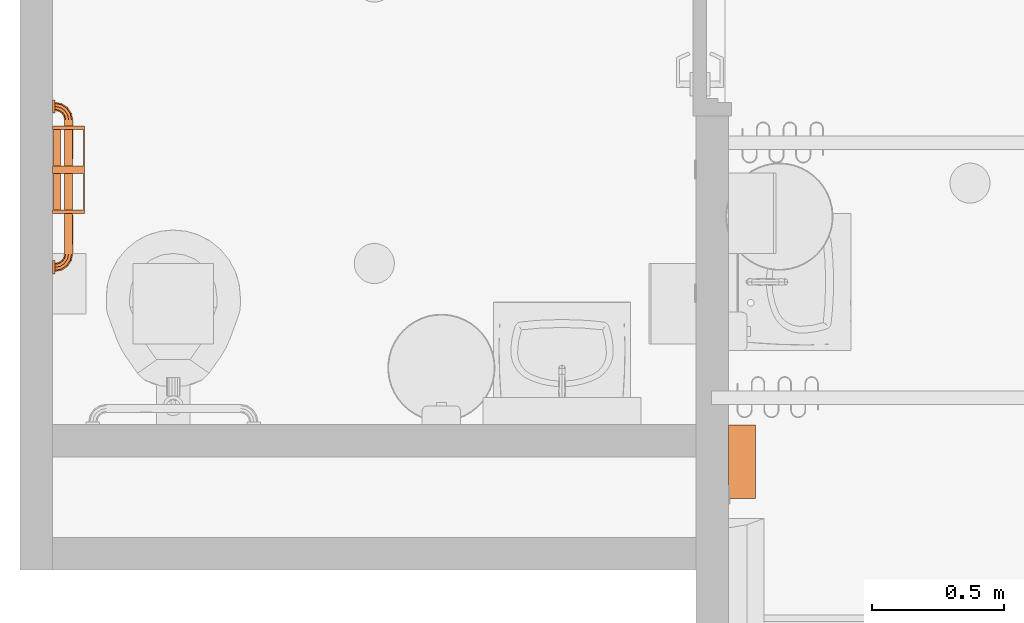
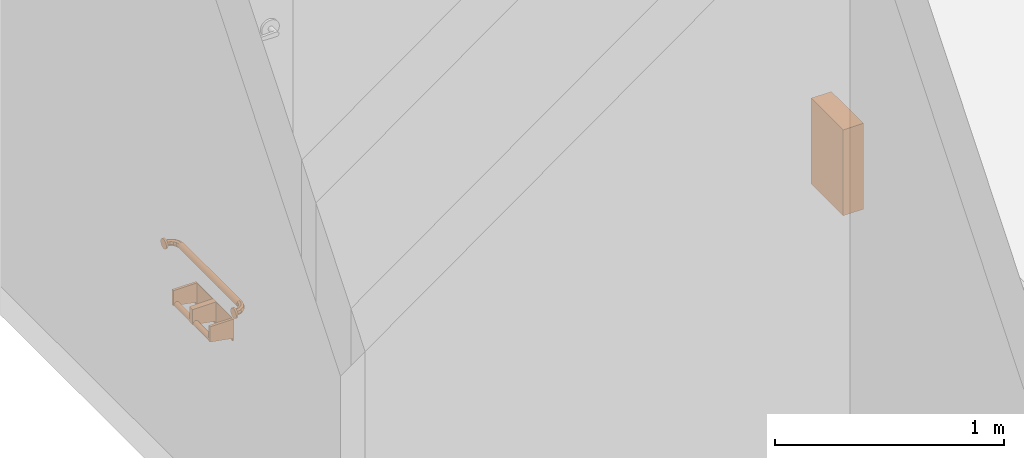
# One storey, part 9 of 14: 3 proxies.
"""IFC2X3 building model written with IfcOpenShell, lengths in feet."""

from ifc_helpers import new_model, entity, si_unit, converted_unit, derived_unit, direction, frame, frame_2d, origin, origin_2d_with_axis, place, context, subcontext, project, spatial, polyline, rectangle, circle, outline, extrude, faceted_brep, source, transform, mapped, type_object, type_shapes, element, save


model = new_model("IFC2X3")

# Units and contexts
model_context = context("Model", 3, precision=0.0001, world=origin(), true_north=direction((6.12303176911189e-17, 1.0)))
body_context = subcontext(model_context, "Body", "Model", "MODEL_VIEW")
ifc_project = project(units=[converted_unit("LENGTHUNIT", "FOOT", entity("IfcRatioMeasure", 0.3048), si_unit("LENGTHUNIT", "METRE"), dimensions=[1, 0, 0, 0, 0, 0, 0]), converted_unit("AREAUNIT", "SQUARE FOOT", entity("IfcRatioMeasure", 0.09290304), si_unit("AREAUNIT", "SQUARE_METRE"), dimensions=[2, 0, 0, 0, 0, 0, 0]), converted_unit("VOLUMEUNIT", "CUBIC FOOT", entity("IfcRatioMeasure", 0.028316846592), si_unit("VOLUMEUNIT", "CUBIC_METRE"), dimensions=[3, 0, 0, 0, 0, 0, 0]), converted_unit("PLANEANGLEUNIT", "DEGREE", entity("IfcRatioMeasure", 0.0174532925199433), si_unit("PLANEANGLEUNIT", "RADIAN"), dimensions=[0, 0, 0, 0, 0, 0, 0]), si_unit("MASSUNIT", "GRAM", prefix="KILO"), derived_unit("MASSDENSITYUNIT", [(si_unit("MASSUNIT", "GRAM", prefix="KILO"), 1), (si_unit("LENGTHUNIT", "METRE"), -3)]), si_unit("TIMEUNIT", "SECOND"), si_unit("FREQUENCYUNIT", "HERTZ"), si_unit("THERMODYNAMICTEMPERATUREUNIT", "DEGREE_CELSIUS"), derived_unit("THERMALTRANSMITTANCEUNIT", [(si_unit("MASSUNIT", "GRAM", prefix="KILO"), 1), (si_unit("THERMODYNAMICTEMPERATUREUNIT", "KELVIN"), -1), (si_unit("TIMEUNIT", "SECOND"), -3)]), derived_unit("VOLUMETRICFLOWRATEUNIT", [(si_unit("LENGTHUNIT", "METRE"), 3), (si_unit("TIMEUNIT", "SECOND"), -1)]), si_unit("ELECTRICCURRENTUNIT", "AMPERE"), si_unit("ELECTRICVOLTAGEUNIT", "VOLT"), si_unit("POWERUNIT", "WATT"), si_unit("FORCEUNIT", "NEWTON"), si_unit("ILLUMINANCEUNIT", "LUX"), si_unit("LUMINOUSFLUXUNIT", "LUMEN"), si_unit("LUMINOUSINTENSITYUNIT", "CANDELA"), derived_unit("USERDEFINED", [(si_unit("MASSUNIT", "GRAM", prefix="KILO"), -1), (si_unit("LENGTHUNIT", "METRE"), -2), (si_unit("TIMEUNIT", "SECOND"), 3), (si_unit("LUMINOUSFLUXUNIT", "LUMEN"), 1)]), derived_unit("LINEARVELOCITYUNIT", [(si_unit("LENGTHUNIT", "METRE"), 1), (si_unit("TIMEUNIT", "SECOND"), -1)]), si_unit("PRESSUREUNIT", "PASCAL"), derived_unit("USERDEFINED", [(si_unit("LENGTHUNIT", "METRE"), -2), (si_unit("MASSUNIT", "GRAM", prefix="KILO"), 1), (si_unit("TIMEUNIT", "SECOND"), -2)])], contexts=[model_context])

# Site, building, storey, space
site_placement = place(None, origin())
site = spatial("IfcSite", under=ifc_project, at=site_placement, Name="Default", CompositionType="ELEMENT")
building_placement = place(site_placement, origin())
building = spatial("IfcBuilding", under=site, at=building_placement, Name="OUTPATIENT / PACT CLINIC (Ch. 265)", CompositionType="ELEMENT")
storey_placement = place(building_placement, origin())
storey = spatial("IfcBuildingStorey", under=building, at=storey_placement, Name="DATUM", CompositionType="ELEMENT", Elevation=0.0)
space_1_placement = place(storey_placement, origin())
space_1 = spatial("IfcSpace", under=storey, at=space_1_placement, Name="XDUS1", CompositionType="ELEMENT", InteriorOrExteriorSpace="INTERNAL")

# Proxy
building_element_proxy_type_1 = type_object("IfcBuildingElementProxyType", Name="A5107 - Dispenser, Glove, Surgical-Examination, Wall Mntd 10\"x 4\"", PredefinedType="NOTDEFINED")
shared_shape_1 = source(origin(), body_context, "Body", "SweptSolid", [
    extrude(rectangle(XDim=0.916666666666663, YDim=0.333333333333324, at=frame_2d((0.0, 2.77555756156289e-17), x_axis=(1.0, 0.0))), frame((0.0, -0.166666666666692, 0.0), z_axis=(0.0, 0.0, 1.0), x_axis=(-1.0, 0.0, 0.0)), (0.0, 0.0, 1.0), 1.5),
])
type_shapes(building_element_proxy_type_1, [shared_shape_1])
proxy_1_placement = place(space_1_placement, frame((332.637693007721, -851.057265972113, 3.5), z_axis=(0.0, 0.0, 1.0), x_axis=(0.0, 1.0, 0.0)))
element("IfcBuildingElementProxy", 1, at=proxy_1_placement, inside=space_1, type_object=building_element_proxy_type_1, Name="A5107 - Dispenser, Glove, Surgical-Examination, Wall Mntd:A5107 - Dispenser, Glove, Surgical-Examination, Wall Mntd 10\"x 4\"", ObjectType="A5107 - Dispenser, Glove, Surgical-Examination, Wall Mntd 10\"x 4\"", context=body_context, shape_type="MappedRepresentation", body=[
    mapped(shared_shape_1, transform((0.0, 0.0, 0.0), scale=1.0)),
])

# Space
space_2_placement = place(storey_placement, origin())
space_2 = spatial("IfcSpace", under=storey, at=space_2_placement, Name="TNPG1", CompositionType="ELEMENT", InteriorOrExteriorSpace="INTERNAL")

# Proxies
building_element_proxy_type_2 = type_object("IfcBuildingElementProxyType", Name="A5109 - Grab Bar, 1.25 in Dia, SS, 2 Wall, W-C Accessible_Improved", PredefinedType="NOTDEFINED")
shared_shape_2 = source(origin(), body_context, "Body", "Brep", [
    faceted_brep([(0.897113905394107, -0.185229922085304, 0.0520833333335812), (0.883020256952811, -0.151204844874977, 0.036828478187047), (0.833333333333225, -0.161088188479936, 0.036828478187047), (0.8333333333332, -0.197916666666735, 0.0520833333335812), (0.877182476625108, -0.137111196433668, 0.0), (0.833333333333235, -0.145833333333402, 0.0), (0.883020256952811, -0.151204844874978, -0.0368284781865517), (0.833333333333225, -0.161088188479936, -0.0368284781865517), (0.897113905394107, -0.185229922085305, -0.0520833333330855), (0.8333333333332, -0.197916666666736, -0.0520833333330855), (0.911207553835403, -0.219254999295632, -0.0368284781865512), (0.833333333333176, -0.234745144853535, -0.0368284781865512), (0.917045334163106, -0.233348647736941, 0.0), (0.833333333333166, -0.250000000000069, 0.0), (0.911207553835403, -0.219254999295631, 0.0368284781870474), (0.833333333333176, -0.234745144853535, 0.0368284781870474), (0.951184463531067, -0.149101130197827, 0.0520833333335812), (0.925142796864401, -0.123059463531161, 0.036828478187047), (0.914355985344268, -0.112272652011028, 0.0), (0.925142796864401, -0.123059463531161, -0.0368284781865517), (0.951184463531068, -0.149101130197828, -0.0520833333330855), (0.977226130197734, -0.175142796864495, -0.0368284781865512), (0.988012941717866, -0.185929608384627, 0.0), (0.977226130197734, -0.175142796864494, 0.0368284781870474), (0.987313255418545, -0.0950305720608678, 0.0520833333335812), (0.953288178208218, -0.0809369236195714, 0.036828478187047), (0.939194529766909, -0.0750991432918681, 0.0), (0.953288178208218, -0.0809369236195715, -0.0368284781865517), (0.987313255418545, -0.0950305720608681, -0.0520833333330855), (1.02133833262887, -0.109124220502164, -0.0368284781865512), (1.03543198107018, -0.114962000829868, 0.0), (1.02133833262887, -0.109124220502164, 0.0368284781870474), (1.0, -0.0312499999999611, 0.0520833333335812), (0.963171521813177, -0.0312499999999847, 0.036828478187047), (0.947916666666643, -0.0312499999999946, 0.0), (0.963171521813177, -0.0312499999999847, -0.0368284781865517), (1.0, -0.0312499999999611, -0.0520833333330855), (1.03682847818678, -0.0312499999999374, -0.0368284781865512), (1.05208333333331, -0.0312499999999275, 0.0), (1.03682847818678, -0.0312499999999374, 0.0368284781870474)], [[[0, 1, 2, 3]], [[1, 4, 5, 2]], [[4, 6, 7, 5]], [[6, 8, 9, 7]], [[8, 10, 11, 9]], [[10, 12, 13, 11]], [[12, 14, 15, 13]], [[14, 0, 3, 15]], [[16, 17, 1, 0]], [[17, 18, 4, 1]], [[18, 19, 6, 4]], [[19, 20, 8, 6]], [[20, 21, 10, 8]], [[21, 22, 12, 10]], [[22, 23, 14, 12]], [[23, 16, 0, 14]], [[24, 25, 17, 16]], [[25, 26, 18, 17]], [[26, 27, 19, 18]], [[27, 28, 20, 19]], [[28, 29, 21, 20]], [[29, 30, 22, 21]], [[30, 31, 23, 22]], [[31, 24, 16, 23]], [[32, 33, 25, 24]], [[33, 34, 26, 25]], [[34, 35, 27, 26]], [[35, 36, 28, 27]], [[36, 37, 29, 28]], [[37, 38, 30, 29]], [[38, 39, 31, 30]], [[39, 32, 24, 31]], [[3, 2, 5, 7, 9, 11, 13, 15]], [[39, 38, 37, 36, 35, 34, 33, 32]]]),
    faceted_brep([(0.978431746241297, -0.0312499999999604, -0.080493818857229), (1.0, -0.0312499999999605, -0.0833333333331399), (1.02156825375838, -0.0312499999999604, -0.0804938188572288), (1.04166666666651, -0.0312499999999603, -0.0721687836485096), (1.05892556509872, -0.0312499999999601, -0.0589255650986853), (1.07216878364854, -0.0312499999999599, -0.0416666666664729), (1.08049381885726, -0.0312499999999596, -0.0215682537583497), (1.08333333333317, -0.0312499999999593, 0.0), (1.08049381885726, -0.031249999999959, 0.0215682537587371), (1.07216878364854, -0.0312499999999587, 0.0416666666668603), (1.05892556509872, -0.0312499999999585, 0.0589255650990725), (1.04166666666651, -0.0312499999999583, 0.0721687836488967), (1.02156825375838, -0.0312499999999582, 0.0804938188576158), (1.0, -0.0312499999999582, 0.0833333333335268), (0.978431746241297, -0.0312499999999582, 0.0804938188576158), (0.958333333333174, -0.0312499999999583, 0.0721687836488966), (0.941074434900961, -0.0312499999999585, 0.0589255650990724), (0.927831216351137, -0.0312499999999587, 0.0416666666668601), (0.919506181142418, -0.031249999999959, 0.0215682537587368), (0.916666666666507, -0.0312499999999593, 0.0), (0.919506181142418, -0.0312499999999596, -0.0215682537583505), (0.927831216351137, -0.0312499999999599, -0.0416666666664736), (0.941074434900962, -0.0312499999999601, -0.0589255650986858), (0.958333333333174, -0.0312499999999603, -0.07216878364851), (1.0, 0.0, 0.0833333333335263), (1.02156825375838, 0.0, 0.0804938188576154), (1.04166666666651, 0.0, 0.0721687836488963), (1.05892556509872, 0.0, 0.0589255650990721), (1.07216878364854, 0.0, 0.0416666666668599), (1.08049381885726, 0.0, 0.0215682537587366), (1.08333333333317, 0.0, 0.0), (1.08049381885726, 0.0, -0.0215682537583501), (1.07216878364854, 0.0, -0.0416666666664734), (1.05892556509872, 0.0, -0.0589255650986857), (1.04166666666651, 0.0, -0.07216878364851), (1.02156825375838, 0.0, -0.0804938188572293), (1.0, 0.0, -0.0833333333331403), (0.978431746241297, 0.0, -0.0804938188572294), (0.958333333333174, 0.0, -0.0721687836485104), (0.941074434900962, 0.0, -0.0589255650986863), (0.927831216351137, 0.0, -0.0416666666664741), (0.919506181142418, 0.0, -0.0215682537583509), (0.916666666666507, 0.0, 0.0), (0.919506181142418, 0.0, 0.0215682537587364), (0.927831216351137, 0.0, 0.0416666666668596), (0.941074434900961, 0.0, 0.0589255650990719), (0.958333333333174, 0.0, 0.0721687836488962), (0.978431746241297, 0.0, 0.0804938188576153)], [[[0, 1, 2, 3, 4, 5, 6, 7, 8, 9, 10, 11, 12, 13, 14, 15, 16, 17, 18, 19, 20, 21, 22, 23]], [[24, 25, 26, 27, 28, 29, 30, 31, 32, 33, 34, 35, 36, 37, 38, 39, 40, 41, 42, 43, 44, 45, 46, 47]], [[30, 7, 6, 31]], [[31, 6, 5, 32]], [[34, 33, 4, 3]], [[4, 33, 32, 5]], [[35, 34, 3, 2]], [[35, 2, 1, 36]], [[36, 1, 0, 37]], [[37, 0, 23, 38]], [[40, 39, 22, 21]], [[22, 39, 38, 23]], [[41, 40, 21, 20]], [[41, 20, 19, 42]], [[42, 19, 18, 43]], [[43, 18, 17, 44]], [[46, 45, 16, 15]], [[16, 45, 44, 17]], [[47, 46, 15, 14]], [[47, 14, 13, 24]], [[24, 13, 12, 25]], [[25, 12, 11, 26]], [[28, 27, 10, 9]], [[10, 27, 26, 11]], [[29, 28, 9, 8]], [[29, 8, 7, 30]]]),
    faceted_brep([(-0.987313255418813, -0.0950305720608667, 0.0520833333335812), (-0.953288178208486, -0.0809369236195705, 0.036828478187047), (-0.963171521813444, -0.0312499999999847, 0.036828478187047), (-1.0, -0.031249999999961, 0.0520833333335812), (-0.939194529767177, -0.0750991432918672, 0.0), (-0.947916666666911, -0.0312499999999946, 0.0), (-0.953288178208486, -0.0809369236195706, -0.0368284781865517), (-0.963171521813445, -0.0312499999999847, -0.0368284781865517), (-0.987313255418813, -0.0950305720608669, -0.0520833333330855), (-1.0, -0.031249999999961, -0.0520833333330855), (-1.02133833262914, -0.109124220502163, -0.0368284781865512), (-1.03682847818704, -0.0312499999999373, -0.0368284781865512), (-1.03543198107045, -0.114962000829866, 0.0), (-1.05208333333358, -0.0312499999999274, 0.0), (-1.02133833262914, -0.109124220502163, 0.0368284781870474), (-1.03682847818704, -0.0312499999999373, 0.0368284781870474), (-0.951184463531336, -0.149101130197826, 0.0520833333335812), (-0.925142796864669, -0.12305946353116, 0.036828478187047), (-0.914355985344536, -0.112272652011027, 0.0), (-0.925142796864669, -0.12305946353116, -0.0368284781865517), (-0.951184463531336, -0.149101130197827, -0.0520833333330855), (-0.977226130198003, -0.175142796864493, -0.0368284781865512), (-0.988012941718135, -0.185929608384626, 0.0), (-0.977226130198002, -0.175142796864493, 0.0368284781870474), (-0.897113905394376, -0.185229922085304, 0.0520833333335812), (-0.883020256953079, -0.151204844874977, 0.036828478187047), (-0.877182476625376, -0.137111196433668, 0.0), (-0.88302025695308, -0.151204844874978, -0.0368284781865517), (-0.897113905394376, -0.185229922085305, -0.0520833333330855), (-0.911207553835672, -0.219254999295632, -0.0368284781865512), (-0.917045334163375, -0.23334864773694, 0.0), (-0.911207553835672, -0.219254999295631, 0.0368284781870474), (-0.833333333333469, -0.197916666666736, 0.0520833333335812), (-0.833333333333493, -0.161088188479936, 0.036828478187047), (-0.833333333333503, -0.145833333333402, 0.0), (-0.833333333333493, -0.161088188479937, -0.0368284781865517), (-0.833333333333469, -0.197916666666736, -0.0520833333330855), (-0.833333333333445, -0.234745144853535, -0.0368284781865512), (-0.833333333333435, -0.250000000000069, 0.0), (-0.833333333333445, -0.234745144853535, 0.0368284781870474)], [[[0, 1, 2, 3]], [[1, 4, 5, 2]], [[4, 6, 7, 5]], [[6, 8, 9, 7]], [[8, 10, 11, 9]], [[10, 12, 13, 11]], [[12, 14, 15, 13]], [[14, 0, 3, 15]], [[16, 17, 1, 0]], [[17, 18, 4, 1]], [[18, 19, 6, 4]], [[19, 20, 8, 6]], [[20, 21, 10, 8]], [[21, 22, 12, 10]], [[22, 23, 14, 12]], [[23, 16, 0, 14]], [[24, 25, 17, 16]], [[25, 26, 18, 17]], [[26, 27, 19, 18]], [[27, 28, 20, 19]], [[28, 29, 21, 20]], [[29, 30, 22, 21]], [[30, 31, 23, 22]], [[31, 24, 16, 23]], [[32, 33, 25, 24]], [[33, 34, 26, 25]], [[34, 35, 27, 26]], [[35, 36, 28, 27]], [[36, 37, 29, 28]], [[37, 38, 30, 29]], [[38, 39, 31, 30]], [[39, 32, 24, 31]], [[3, 2, 5, 7, 9, 11, 13, 15]], [[39, 38, 37, 36, 35, 34, 33, 32]]]),
    faceted_brep([(-0.958333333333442, -0.0312499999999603, -0.07216878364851), (-0.941074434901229, -0.0312499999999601, -0.0589255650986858), (-0.927831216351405, -0.0312499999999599, -0.0416666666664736), (-0.919506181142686, -0.0312499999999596, -0.0215682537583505), (-0.916666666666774, -0.0312499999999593, 0.0), (-0.919506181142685, -0.031249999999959, 0.0215682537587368), (-0.927831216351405, -0.0312499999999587, 0.0416666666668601), (-0.941074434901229, -0.0312499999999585, 0.0589255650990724), (-0.958333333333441, -0.0312499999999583, 0.0721687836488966), (-0.978431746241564, -0.0312499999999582, 0.0804938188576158), (-1.0, -0.0312499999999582, 0.0833333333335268), (-1.02156825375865, -0.0312499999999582, 0.0804938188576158), (-1.04166666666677, -0.0312499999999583, 0.0721687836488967), (-1.05892556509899, -0.0312499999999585, 0.0589255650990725), (-1.07216878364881, -0.0312499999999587, 0.0416666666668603), (-1.08049381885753, -0.031249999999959, 0.0215682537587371), (-1.08333333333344, -0.0312499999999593, 0.0), (-1.08049381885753, -0.0312499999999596, -0.0215682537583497), (-1.07216878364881, -0.0312499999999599, -0.0416666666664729), (-1.05892556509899, -0.0312499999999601, -0.0589255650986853), (-1.04166666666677, -0.0312499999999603, -0.0721687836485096), (-1.02156825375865, -0.0312499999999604, -0.0804938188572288), (-1.0, -0.0312499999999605, -0.0833333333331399), (-0.978431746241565, -0.0312499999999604, -0.080493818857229), (-0.978431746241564, 0.0, 0.0804938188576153), (-0.958333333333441, 0.0, 0.0721687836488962), (-0.941074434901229, 0.0, 0.0589255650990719), (-0.927831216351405, 0.0, 0.0416666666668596), (-0.919506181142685, 0.0, 0.0215682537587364), (-0.916666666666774, 0.0, 0.0), (-0.919506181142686, 0.0, -0.0215682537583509), (-0.927831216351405, 0.0, -0.0416666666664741), (-0.941074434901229, 0.0, -0.0589255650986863), (-0.958333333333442, 0.0, -0.0721687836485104), (-0.978431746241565, 0.0, -0.0804938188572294), (-1.0, 0.0, -0.0833333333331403), (-1.02156825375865, 0.0, -0.0804938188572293), (-1.04166666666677, 0.0, -0.07216878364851), (-1.05892556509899, 0.0, -0.0589255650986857), (-1.07216878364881, 0.0, -0.0416666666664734), (-1.08049381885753, 0.0, -0.0215682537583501), (-1.08333333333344, 0.0, 0.0), (-1.08049381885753, 0.0, 0.0215682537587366), (-1.07216878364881, 0.0, 0.0416666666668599), (-1.05892556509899, 0.0, 0.0589255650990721), (-1.04166666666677, 0.0, 0.0721687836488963), (-1.02156825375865, 0.0, 0.0804938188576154), (-1.0, 0.0, 0.0833333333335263)], [[[0, 1, 2, 3, 4, 5, 6, 7, 8, 9, 10, 11, 12, 13, 14, 15, 16, 17, 18, 19, 20, 21, 22, 23]], [[24, 25, 26, 27, 28, 29, 30, 31, 32, 33, 34, 35, 36, 37, 38, 39, 40, 41, 42, 43, 44, 45, 46, 47]], [[40, 17, 16, 41]], [[39, 18, 17, 40]], [[20, 19, 38, 37]], [[39, 38, 19, 18]], [[21, 20, 37, 36]], [[22, 21, 36, 35]], [[34, 23, 22, 35]], [[33, 0, 23, 34]], [[2, 1, 32, 31]], [[33, 32, 1, 0]], [[3, 2, 31, 30]], [[4, 3, 30, 29]], [[28, 5, 4, 29]], [[27, 6, 5, 28]], [[8, 7, 26, 25]], [[27, 26, 7, 6]], [[9, 8, 25, 24]], [[10, 9, 24, 47]], [[46, 11, 10, 47]], [[45, 12, 11, 46]], [[14, 13, 44, 43]], [[45, 44, 13, 12]], [[15, 14, 43, 42]], [[16, 15, 42, 41]]]),
    faceted_brep([(0.833333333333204, -0.171875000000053, 0.0451054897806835), (0.833333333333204, -0.18443650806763, 0.0503086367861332), (0.833333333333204, -0.19791666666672, 0.0520833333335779), (0.833333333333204, -0.21139682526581, 0.0503086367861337), (0.833333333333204, -0.223958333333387, 0.0451054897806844), (0.833333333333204, -0.23474514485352, 0.0368284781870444), (0.833333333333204, -0.24302215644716, 0.0260416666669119), (0.833333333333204, -0.24822530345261, 0.0134801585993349), (0.833333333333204, -0.250000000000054, 0.0), (0.833333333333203, -0.24822530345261, -0.0134801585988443), (0.833333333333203, -0.243022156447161, -0.0260416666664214), (0.833333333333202, -0.234745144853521, -0.0368284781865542), (0.833333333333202, -0.223958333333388, -0.0451054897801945), (0.833333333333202, -0.211396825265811, -0.0503086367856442), (0.833333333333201, -0.197916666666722, -0.0520833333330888), (0.833333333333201, -0.184436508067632, -0.0503086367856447), (0.833333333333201, -0.171875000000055, -0.0451054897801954), (0.833333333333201, -0.161088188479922, -0.0368284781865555), (0.833333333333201, -0.152811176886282, -0.0260416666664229), (0.833333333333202, -0.147608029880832, -0.013480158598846), (0.833333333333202, -0.145833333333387, 0.0), (0.833333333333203, -0.147608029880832, 0.0134801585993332), (0.833333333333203, -0.152811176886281, 0.0260416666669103), (0.833333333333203, -0.161088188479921, 0.0368284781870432), (-0.833333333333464, -0.250000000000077, 0.0), (-0.833333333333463, -0.248225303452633, 0.0134801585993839), (-0.833333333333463, -0.243022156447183, 0.0260416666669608), (-0.833333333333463, -0.234745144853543, 0.0368284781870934), (-0.833333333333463, -0.22395833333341, 0.0451054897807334), (-0.833333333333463, -0.211396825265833, 0.0503086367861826), (-0.833333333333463, -0.197916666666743, 0.0520833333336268), (-0.833333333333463, -0.184436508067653, 0.0503086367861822), (-0.833333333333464, -0.171875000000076, 0.0451054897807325), (-0.833333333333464, -0.161088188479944, 0.0368284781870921), (-0.833333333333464, -0.152811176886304, 0.0260416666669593), (-0.833333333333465, -0.147608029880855, 0.0134801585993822), (-0.833333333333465, -0.14583333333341, 0.0), (-0.833333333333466, -0.147608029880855, -0.0134801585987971), (-0.833333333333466, -0.152811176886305, -0.026041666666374), (-0.833333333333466, -0.161088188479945, -0.0368284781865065), (-0.833333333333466, -0.171875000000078, -0.0451054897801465), (-0.833333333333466, -0.184436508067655, -0.0503086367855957), (-0.833333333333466, -0.197916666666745, -0.0520833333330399), (-0.833333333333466, -0.211396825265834, -0.0503086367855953), (-0.833333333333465, -0.223958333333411, -0.0451054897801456), (-0.833333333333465, -0.234745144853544, -0.0368284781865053), (-0.833333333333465, -0.243022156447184, -0.0260416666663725), (-0.833333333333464, -0.248225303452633, -0.0134801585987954), (0.0, -0.177985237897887, -0.0481187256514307), (0.0, -0.149797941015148, -0.0199314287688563), (0.379725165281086, -0.146278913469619, -0.00679823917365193), (0.194178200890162, -0.156596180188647, -0.0317063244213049), (0.379725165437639, -0.166210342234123, -0.0413204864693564), (-0.194178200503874, -0.166210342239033, -0.041320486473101), (-0.379725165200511, -0.156596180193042, -0.0317063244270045), (-0.194178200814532, -0.156596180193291, 0.0317063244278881), (-0.379725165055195, -0.166210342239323, 0.0413204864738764), (0.379725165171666, -0.156596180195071, 0.0317063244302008), (0.194178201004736, -0.166210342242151, 0.0413204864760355), (-0.194178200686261, -0.146278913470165, -0.00679823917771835), (-0.268341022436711, -0.187755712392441, -0.0510825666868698), (-3.08563133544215e-06, -0.197916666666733, -0.0520833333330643), (0.303092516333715, -0.188540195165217, -0.051232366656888), (0.194178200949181, -0.146278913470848, 0.0067982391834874), (-0.379725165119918, -0.146278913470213, 0.00679823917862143), (0.0, -0.149797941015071, 0.0199314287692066), (0.0, -0.17798523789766, 0.0481187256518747), (0.0, -0.197916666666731, 0.0520833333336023), (-0.303092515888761, -0.188540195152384, 0.0512323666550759), (0.268341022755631, -0.187755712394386, 0.0510825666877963), (0.0795376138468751, -0.19791666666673, 0.0520833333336), (0.379725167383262, -0.239237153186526, 0.0317063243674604), (0.0, -0.229622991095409, 0.0413204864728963), (-0.379725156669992, -0.21784809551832, 0.048118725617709), (0.0, -0.246035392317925, 0.0199314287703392), (-0.194178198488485, -0.239237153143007, 0.0317063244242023), (-0.194178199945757, -0.239237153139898, -0.0317063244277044), (-0.37972516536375, -0.229622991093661, -0.041320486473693), (0.379725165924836, -0.239237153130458, -0.0317063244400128), (0.194178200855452, -0.229622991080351, -0.0413204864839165), (-0.194178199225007, -0.249554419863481, 0.00679823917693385), (0.253643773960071, -0.207836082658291, 0.0511300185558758), (-0.287622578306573, -0.206936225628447, 0.0512964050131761), (0.194178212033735, -0.217848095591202, 0.0481187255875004), (0.379725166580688, -0.24955441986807, 0.00679823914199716), (0.0, -0.246035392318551, -0.019931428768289), (-0.379725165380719, -0.249554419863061, -0.00679823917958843), (0.194178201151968, -0.249554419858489, -0.00679823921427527), (0.0, -0.217848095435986, -0.0481187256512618), (-0.303092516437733, -0.207293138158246, -0.0512323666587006), (0.268341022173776, -0.208077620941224, -0.0510825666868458)], [[[0, 1, 2, 3, 4, 5, 6, 7, 8, 9, 10, 11, 12, 13, 14, 15, 16, 17, 18, 19, 20, 21, 22, 23]], [[24, 25, 26, 27, 28, 29, 30, 31, 32, 33, 34, 35, 36, 37, 38, 39, 40, 41, 42, 43, 44, 45, 46, 47]], [[48, 41, 40]], [[49, 50, 19]], [[51, 52, 53, 54]], [[40, 53, 48]], [[49, 38, 37]], [[55, 33, 56]], [[57, 58, 23]], [[54, 49, 51]], [[48, 52, 16]], [[59, 49, 37]], [[41, 48, 60]], [[14, 61, 62]], [[41, 60, 42]], [[40, 39, 53]], [[51, 18, 17]], [[16, 15, 48]], [[63, 21, 20]], [[48, 53, 52]], [[18, 51, 49]], [[34, 33, 55]], [[19, 18, 49]], [[37, 36, 59]], [[49, 59, 50]], [[63, 50, 59, 64]], [[65, 35, 34]], [[59, 36, 64]], [[50, 63, 20]], [[34, 55, 65]], [[66, 32, 31]], [[33, 32, 56]], [[53, 39, 54]], [[56, 66, 58]], [[22, 57, 23]], [[30, 67, 68]], [[65, 21, 63]], [[22, 21, 65]], [[39, 38, 54]], [[58, 0, 23]], [[61, 60, 62]], [[65, 55, 57]], [[19, 50, 20]], [[66, 0, 58]], [[0, 66, 1]], [[36, 35, 64]], [[66, 69, 1]], [[16, 52, 17]], [[52, 51, 17]], [[65, 63, 64]], [[67, 69, 68]], [[69, 2, 1]], [[49, 54, 38]], [[65, 57, 22]], [[58, 57, 55, 56]], [[65, 64, 35]], [[66, 56, 32]], [[62, 48, 15]], [[42, 60, 61]], [[48, 62, 60]], [[14, 62, 15]], [[68, 66, 31]], [[69, 67, 70, 2]], [[66, 68, 69]], [[30, 68, 31]], [[6, 5, 71]], [[72, 73, 28]], [[74, 71, 75]], [[27, 72, 28]], [[74, 26, 25]], [[76, 45, 77]], [[78, 79, 11]], [[27, 75, 72]], [[72, 71, 5]], [[80, 74, 25]], [[2, 70, 81]], [[29, 73, 82]], [[46, 45, 76]], [[27, 26, 75]], [[83, 4, 3]], [[72, 4, 83]], [[72, 83, 73]], [[5, 4, 72]], [[71, 72, 75]], [[25, 24, 80]], [[7, 6, 74]], [[82, 30, 29]], [[74, 80, 84]], [[83, 81, 82]], [[85, 47, 46]], [[80, 24, 86]], [[84, 87, 8]], [[46, 76, 85]], [[88, 44, 43]], [[45, 44, 77]], [[7, 84, 8]], [[77, 88, 79]], [[10, 78, 11]], [[42, 61, 89]], [[85, 9, 87]], [[10, 9, 85]], [[79, 12, 11]], [[90, 14, 13]], [[74, 6, 71]], [[85, 76, 78]], [[28, 73, 29]], [[88, 12, 79]], [[12, 88, 13]], [[82, 81, 70]], [[88, 90, 13]], [[26, 74, 75]], [[24, 47, 86]], [[85, 87, 86]], [[61, 90, 89]], [[87, 9, 8]], [[83, 82, 73]], [[82, 70, 67, 30]], [[83, 3, 81]], [[2, 81, 3]], [[74, 84, 7]], [[87, 84, 80, 86]], [[85, 78, 10]], [[79, 78, 76, 77]], [[85, 86, 47]], [[88, 77, 44]], [[89, 88, 43]], [[14, 90, 61]], [[88, 89, 90]], [[42, 89, 43]]]),
])
type_shapes(building_element_proxy_type_2, [shared_shape_2])
proxy_2_placement = place(space_2_placement, frame((324.231443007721, -847.640599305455, 3.0), z_axis=(0.0, 0.0, 1.0), x_axis=(0.0, 1.0, 0.0)))
element("IfcBuildingElementProxy", 2, at=proxy_2_placement, inside=space_2, type_object=building_element_proxy_type_2, Name="A5109 - Grab Bar, 1.25 in Dia, SS, 2 Wall, W-C Accessible_Improved:A5109 - Grab Bar, 1.25 in Dia, SS, 2 Wall, W-C Accessible_Improved", ObjectType="A5109 - Grab Bar, 1.25 in Dia, SS, 2 Wall, W-C Accessible_Improved", context=body_context, shape_type="MappedRepresentation", body=[
    mapped(shared_shape_2, transform((0.0, 0.0, 0.0), scale=1.0)),
])
building_element_proxy_type_3 = type_object("IfcBuildingElementProxyType", Name="A5200 - Dispenser, Toilet Tissue, SS, 2-Roll, Surface Mntd", PredefinedType="NOTDEFINED")
shared_shape_3 = source(origin(), body_context, "Body", "SweptSolid", [
    extrude(circle(Radius=0.0439072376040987, at=frame_2d((-9.86076131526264e-32, 1.11022302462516e-16), x_axis=(1.0, 0.0))), frame((0.0468750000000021, 0.344872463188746, 0.125668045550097), z_axis=(1.0, 0.0, 0.0), x_axis=(0.0, 0.0, 1.0)), (0.0, 0.0, 1.0), 0.453124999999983),
    extrude(circle(Radius=0.0061848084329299, at=origin_2d_with_axis()), frame((0.0468750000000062, 0.34487246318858, 0.125668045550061), z_axis=(1.0, 0.0, 0.0), x_axis=(0.0, 1.0, 0.0)), (0.0, 0.0, 1.0), 0.453124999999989),
    extrude(circle(Radius=0.0439072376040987, at=frame_2d((1.97215226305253e-31, -2.22044604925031e-16), x_axis=(1.0, 0.0))), frame((-0.500000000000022, 0.344872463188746, 0.125668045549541), z_axis=(1.0, 0.0, 0.0), x_axis=(0.0, 0.0, 1.0)), (0.0, 0.0, 1.0), 0.453124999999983),
    extrude(rectangle(XDim=0.541666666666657, YDim=0.0104166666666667, at=frame_2d((0.0, -4.33680868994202e-19), x_axis=(1.0, 0.0))), frame((0.270833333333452, 0.00520833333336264, 0.0), z_axis=(0.0, 0.0, 1.0), x_axis=(-1.0, 0.0, 0.0)), (0.0, 0.0, 1.0), 0.375668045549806),
    extrude(outline(polyline([(-0.225313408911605, -0.140625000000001), (0.150354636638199, -0.140625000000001), (0.150354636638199, -0.114583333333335), (0.108687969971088, -0.114583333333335), (0.0412295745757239, 0.255208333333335), (-0.225313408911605, 0.255208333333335), (-0.225313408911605, -0.140625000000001)])), frame((0.0, 0.140625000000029, 0.15035463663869), z_axis=(1.0, 0.0, 0.0), x_axis=(0.0, 0.0, -1.0)), (0.0, 0.0, 1.0), 0.0468750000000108),
    extrude(outline(polyline([(-0.225313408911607, -0.140625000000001), (0.150354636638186, -0.140625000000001), (0.150354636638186, -0.114583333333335), (0.108687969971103, -0.114583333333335), (0.0412295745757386, 0.255208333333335), (-0.225313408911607, 0.255208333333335), (-0.225313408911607, -0.140625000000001)])), frame((0.49999999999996, 0.140625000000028, 0.150354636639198), z_axis=(1.0, 0.0, 0.0), x_axis=(0.0, 0.0, -1.0)), (0.0, 0.0, 1.0), 0.0416666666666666),
    extrude(circle(Radius=0.0061848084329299, at=frame_2d((2.46519032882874e-32, -2.77555756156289e-17), x_axis=(1.0, 0.0))), frame((-0.500000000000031, 0.344872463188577, 0.125668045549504), z_axis=(1.0, 0.0, 0.0), x_axis=(0.0, 1.0, 0.0)), (0.0, 0.0, 1.0), 0.453124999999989),
    extrude(rectangle(XDim=0.541666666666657, YDim=0.0104166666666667, at=frame_2d((0.0, 4.33680868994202e-19), x_axis=(1.0, 0.0))), frame((-0.27083333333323, 0.00520833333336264, 0.0), z_axis=(0.0, 0.0, 1.0), x_axis=(-1.0, 0.0, 0.0)), (0.0, 0.0, 1.0), 0.375668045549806),
    extrude(outline(polyline([(-0.225313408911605, -0.140625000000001), (0.150354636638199, -0.140625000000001), (0.150354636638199, -0.114583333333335), (0.108687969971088, -0.114583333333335), (0.041229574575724, 0.255208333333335), (-0.225313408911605, 0.255208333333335), (-0.225313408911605, -0.140625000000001)])), frame((-0.0468750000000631, 0.140625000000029, 0.150354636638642), z_axis=(1.0, 0.0, 0.0), x_axis=(0.0, 0.0, -1.0)), (0.0, 0.0, 1.0), 0.0468750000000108),
    extrude(outline(polyline([(-0.225313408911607, -0.140625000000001), (0.150354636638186, -0.140625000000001), (0.150354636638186, -0.114583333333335), (0.108687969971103, -0.114583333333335), (0.0412295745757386, 0.255208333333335), (-0.225313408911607, 0.255208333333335), (-0.225313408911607, -0.140625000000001)])), frame((-0.541666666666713, 0.140625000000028, 0.150354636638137), z_axis=(1.0, 0.0, 0.0), x_axis=(0.0, 0.0, -1.0)), (0.0, 0.0, 1.0), 0.0416666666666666),
])
type_shapes(building_element_proxy_type_3, [shared_shape_3])
proxy_3_placement = place(space_2_placement, frame((324.627276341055, -847.427057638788, 1.97884114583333), z_axis=(0.0, 0.0, 1.0), x_axis=(0.0, 1.0, 0.0)))
element("IfcBuildingElementProxy", 3, at=proxy_3_placement, inside=space_2, type_object=building_element_proxy_type_3, Name="A5200 - Dispenser, Toilet Tissue, SS, 2-Roll, Surface Mntd:A5200 - Dispenser, Toilet Tissue, SS, 2-Roll, Surface Mntd", ObjectType="A5200 - Dispenser, Toilet Tissue, SS, 2-Roll, Surface Mntd", context=body_context, shape_type="MappedRepresentation", body=[
    mapped(shared_shape_3, transform((0.0, 0.0, 0.0), scale=1.0)),
])

save(model, "model.ifc")
